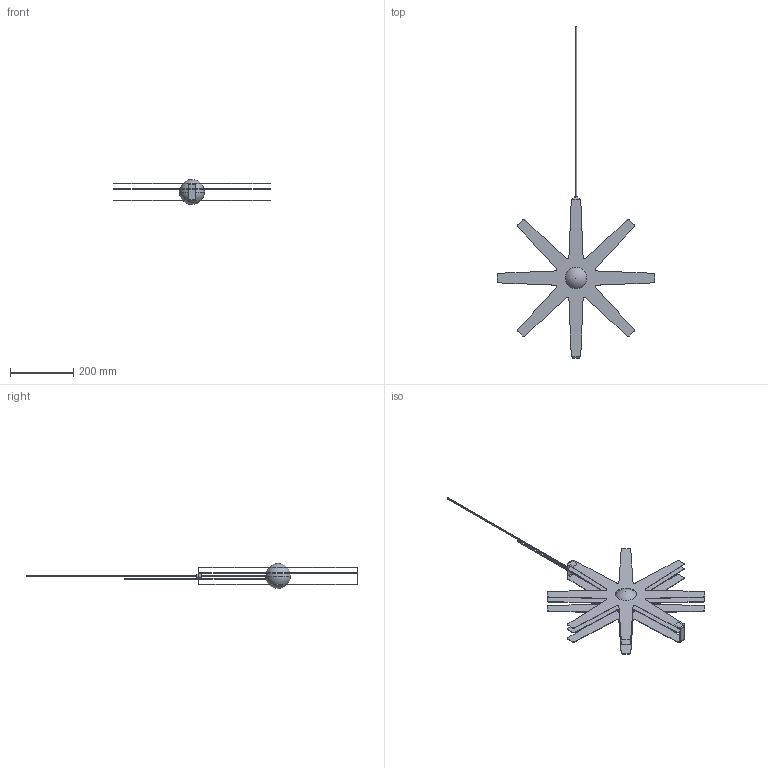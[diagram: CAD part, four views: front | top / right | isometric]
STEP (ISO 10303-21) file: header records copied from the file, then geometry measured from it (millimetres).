
FILE_DESCRIPTION (( 'STEP AP214' ), '1' );
FILE_NAME ('fling 50.STEP', '2022-06-13T13:00:46', ( '' ), ( '' ), 'SwSTEP 2.0', 'SolidWorks 2018', '' );
FILE_SCHEMA (( 'AUTOMOTIVE_DESIGN' ));
Length unit declared in the file: millimetre
Products named in the file (1): fling 50
Bounding box: 500 x 1053.82 x 80 mm (x, y, z)
Volume: 667898.6 mm3; surface area: 461321.4 mm2
Topology: 7 solids, 7 shells, 216 faces, 595 edges, 385 vertices
Faces by surface type: cylinder 106, plane 104, sphere 4, cone 2
Entity records: 6941 total; most frequent: DIRECTION 1233, CARTESIAN_POINT 1179, ORIENTED_EDGE 1166, EDGE_CURVE 583, AXIS2_PLACEMENT_3D 433, VERTEX_POINT 379, LINE 367, VECTOR 367
